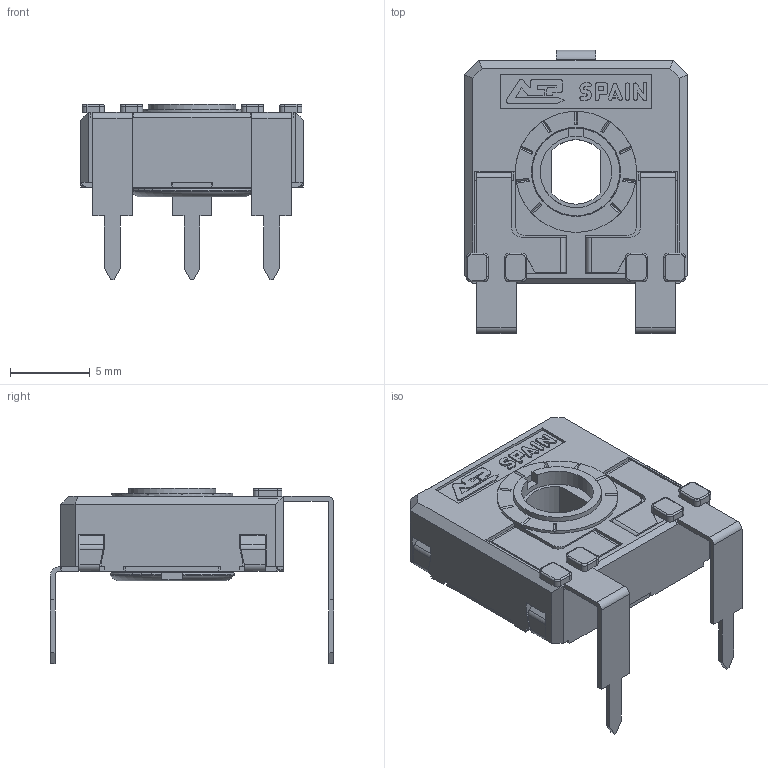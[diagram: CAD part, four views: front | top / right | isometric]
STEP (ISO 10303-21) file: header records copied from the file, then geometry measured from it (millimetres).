
FILE_DESCRIPTION(/* description */ (''),/* implementation_level */ '2;1');
FILE_NAME(/* name */ '\\SERVERACP\intercambio\Ignacio Santa Cecilia\Nueva WEB 2025\CA14 - CE14\CA14ZV17,5.stp',/* time_stamp */ '2025-07-01T10:44:18+02:00',/* author */ ('CEM'),/* organization */ (''),/* preprocessor_version */ 'ST-DEVELOPER v17',/* originating_system */ 'Autodesk Inventor 2018',/* authorisation */ '');
FILE_SCHEMA (('AUTOMOTIVE_DESIGN { 1 0 10303 214 3 1 1 }'));
Length unit declared in the file: millimetre
Products named in the file (1): CARCASA CA14 PGA
Bounding box: 14 x 17.8 x 11 mm (x, y, z)
Volume: 539.9 mm3; surface area: 1517.4 mm2
Topology: 1 solids, 1 shells, 670 faces, 1894 edges, 1220 vertices
Faces by surface type: plane 496, cylinder 137, torus 23, bspline 8, cone 6
Full cylindrical faces by diameter (mm): 4.5 x1, 5.5 x1, 5.6 x1, 5.752 x1, 6.8 x1, 7.6 x1
Entity records: 21897 total; most frequent: CARTESIAN_POINT 4082, ORIENTED_EDGE 3788, DIRECTION 3535, EDGE_CURVE 1894, LINE 1489, VECTOR 1489, VERTEX_POINT 1220, AXIS2_PLACEMENT_3D 1023
